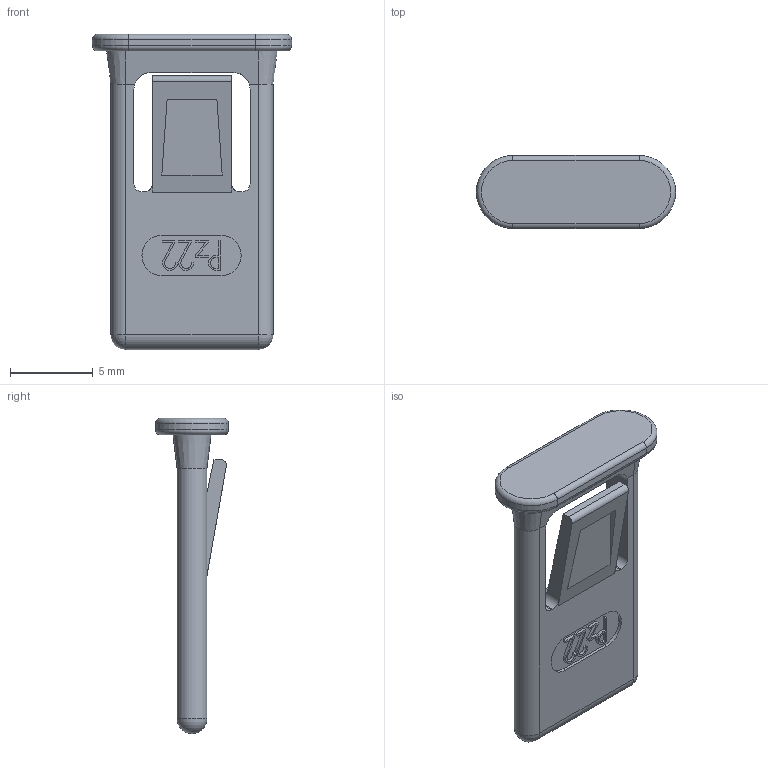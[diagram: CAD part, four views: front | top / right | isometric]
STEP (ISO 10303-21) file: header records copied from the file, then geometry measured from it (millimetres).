
FILE_DESCRIPTION((''),'2;1');
FILE_NAME('C:\Uebbing\PARAMETERKETTEN\KOLIBRI\Kol_22_038_0\Kol_22_038_0_PZ_Stecksteg.stp','2011-11-02T11:16:35',('Uebbing'),(''),'Autodesk Inventor 10','Autodesk Inventor 10','');
FILE_SCHEMA(('AUTOMOTIVE_DESIGN { 1 0 10303 214 1 1 1 1 }'));
Length unit declared in the file: millimetre
Products named in the file (1): Kol_22_038_0_PZ_Stecksteg
Bounding box: 12 x 4.4 x 19 mm (x, y, z)
Volume: 290.6 mm3; surface area: 535.9 mm2
Topology: 1 solids, 1 shells, 95 faces, 249 edges, 160 vertices
Faces by surface type: plane 62, cylinder 25, torus 4, cone 2, sphere 2
Entity records: 2948 total; most frequent: CARTESIAN_POINT 543, DIRECTION 495, ORIENTED_EDGE 494, EDGE_CURVE 247, VECTOR 183, LINE 183, VERTEX_POINT 160, AXIS2_PLACEMENT_3D 156
